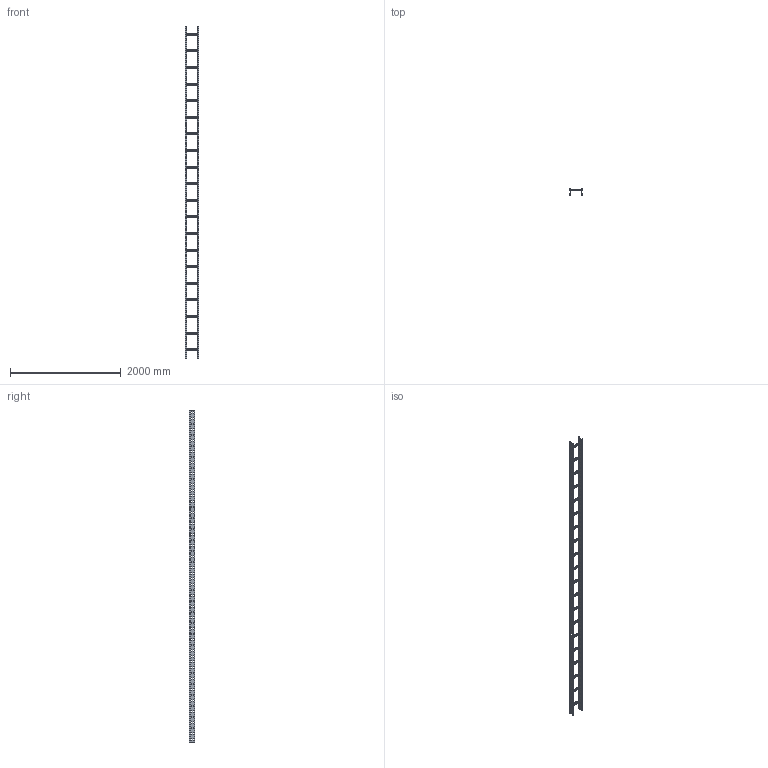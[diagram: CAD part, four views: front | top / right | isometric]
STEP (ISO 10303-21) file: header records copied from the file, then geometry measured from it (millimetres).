
FILE_DESCRIPTION(('Creo Elements/Direct Modeling STEP Export'),'2;1');
FILE_NAME('WP10-20.stp','2016-05-13T13:20:36',(''),(''),'PTC Creo Elements/Direct Modeling STEP processor for AP214 (Solid Model)','PTC Creo Elements/Direct Modeling 19.0C 15-Aug-2015 (C) Parametric Technology GmbH','');
FILE_SCHEMA(('AUTOMOTIVE_DESIGN { 1 0 10303 214 1 1 1 1 }'));
Length unit declared in the file: millimetre
Products named in the file (3): WPH_100B_S_; WPSP_02; WP10-20
Assembly tree (22 placements, depth 2):
  WP10-20
    WPSP_02  x20
    WPH_100B_S_  x2
Bounding box: 250 x 100 x 6000 mm (x, y, z)
Volume: 3371791 mm3; surface area: 4585164.9 mm2
Topology: 22 solids, 22 shells, 2636 faces, 7776 edges, 5184 vertices
Faces by surface type: plane 1808, cylinder 828
Entity records: 21610 total; most frequent: ORIENTED_EDGE 3780, CARTESIAN_POINT 3761, DIRECTION 3295, EDGE_CURVE 1890, VECTOR 1707, LINE 1707, VERTEX_POINT 1260, EDGE_LOOP 928
